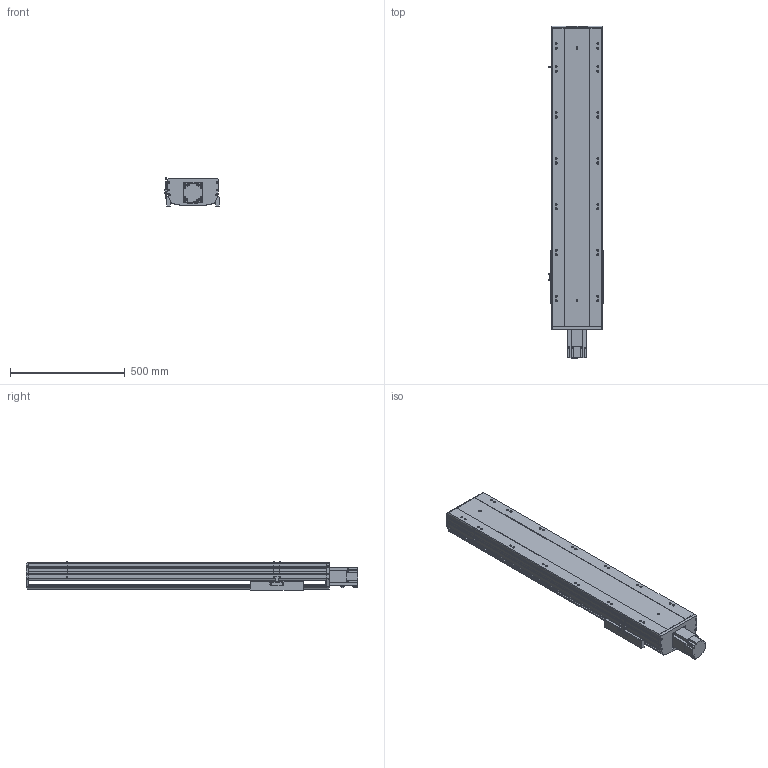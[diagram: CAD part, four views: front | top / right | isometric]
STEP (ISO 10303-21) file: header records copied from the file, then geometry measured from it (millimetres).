
FILE_DESCRIPTION (( 'STEP AP203' ), '1' );
FILE_NAME ('18.STEP', '2020-11-23T01:54:34', ( '' ), ( '' ), 'SwSTEP 2.0', 'SolidWorks 2016', '' );
FILE_SCHEMA (( 'CONFIG_CONTROL_DESIGN' ));
Length unit declared in the file: millimetre
Products named in the file (7): BTH22-BC-02; BTH22-BC-01; BTH22-BC-T75; BTH22-BC-菁釱; BTH22-BC-04; 18; BTH22-BC-HZ
Assembly tree (8 placements, depth 2):
  18
    BTH22-BC-菁釱
    BTH22-BC-01
    BTH22-BC-02
    BTH22-BC-04  x3
    BTH22-BC-HZ
    BTH22-BC-T75
Bounding box: 238.7 x 1444.3 x 122.7 mm (x, y, z)
Volume: 17264824 mm3; surface area: 2111380.1 mm2
Topology: 10 solids, 10 shells, 973 faces, 2756 edges, 1805 vertices
Faces by surface type: plane 529, cylinder 406, cone 38
Entity records: 29083 total; most frequent: CARTESIAN_POINT 5745, ORIENTED_EDGE 4756, DIRECTION 4736, EDGE_CURVE 2378, AXIS2_PLACEMENT_3D 1604, VERTEX_POINT 1573, VECTOR 1528, LINE 1528
